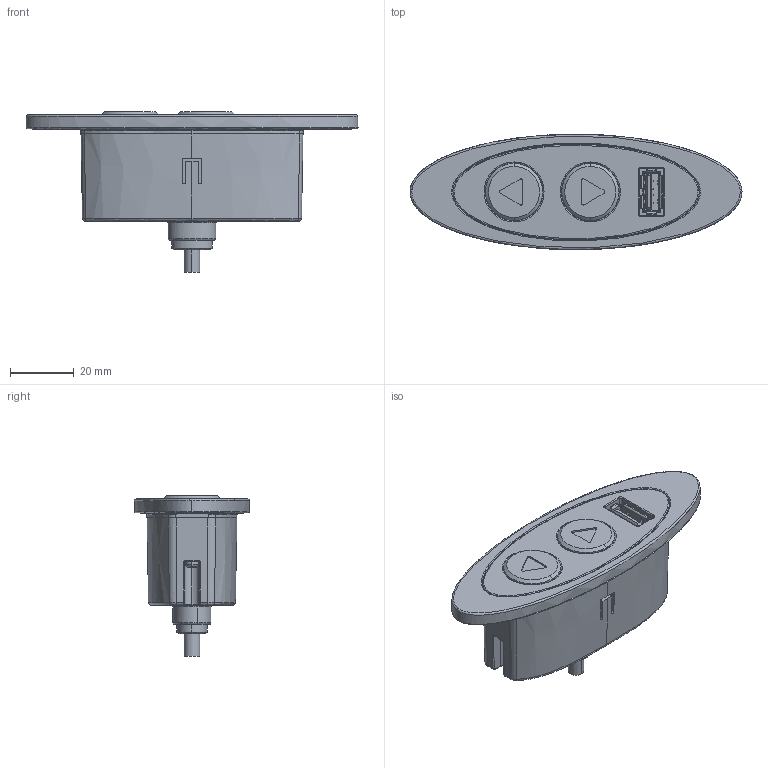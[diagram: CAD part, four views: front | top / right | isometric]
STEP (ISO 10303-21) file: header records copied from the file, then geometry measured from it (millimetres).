
FILE_DESCRIPTION (( 'STEP AP203' ), '1' );
FILE_NAME ('產品三維模型圖-TFH30-A.STEP', '2020-01-13T12:27:27', ( '' ), ( '' ), 'SwSTEP 2.0', 'SolidWorks 2015', '' );
FILE_SCHEMA (( 'CONFIG_CONTROL_DESIGN' ));
Length unit declared in the file: millimetre
Products named in the file (1): 產品三維模型圖-TFH30-A
Bounding box: 104.53 x 36.32 x 50.5 mm (x, y, z)
Volume: 62024.3 mm3; surface area: 23537.3 mm2
Topology: 9 solids, 9 shells, 1240 faces, 3339 edges, 2132 vertices
Faces by surface type: plane 694, cylinder 321, bspline 180, torus 25, cone 20
Entity records: 57956 total; most frequent: CARTESIAN_POINT 28042, ORIENTED_EDGE 6678, DIRECTION 5492, EDGE_CURVE 3339, LINE 2174, VECTOR 2174, VERTEX_POINT 2132, AXIS2_PLACEMENT_3D 1659
